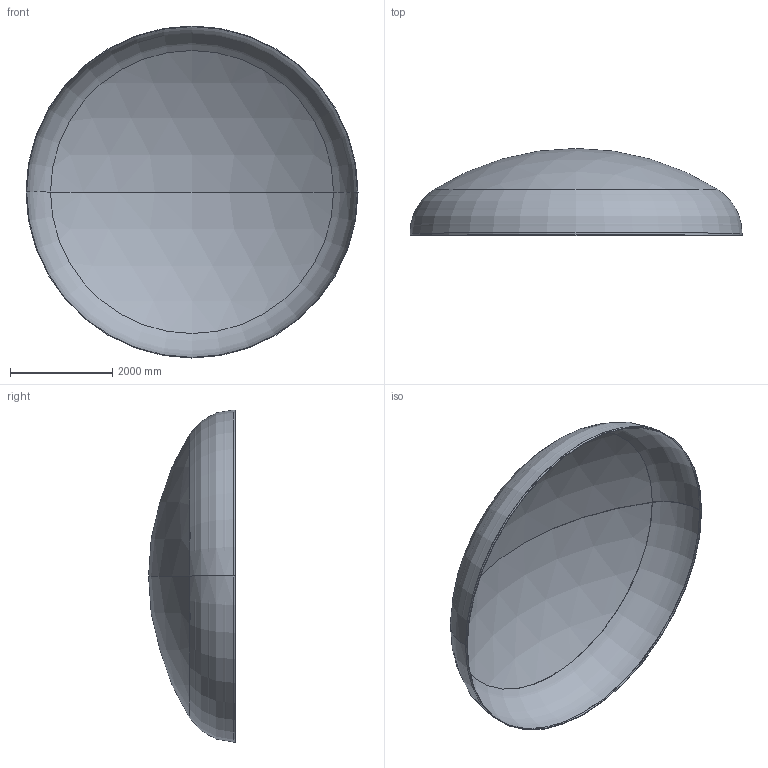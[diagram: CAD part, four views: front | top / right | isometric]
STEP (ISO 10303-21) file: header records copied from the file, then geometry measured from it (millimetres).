
FILE_DESCRIPTION (( 'STEP AP203' ), '1' );
FILE_NAME ('DIN 28013 Korbbogenform_-_Boden DIN 28013 - 6500 x 40 - I - s=12.step', '2016-07-04T10:39:54', ( '' ), ( '' ), 'SwSTEP 2.0', 'SolidWorks 2013', '' );
FILE_SCHEMA (( 'CONFIG_CONTROL_DESIGN' ));
Length unit declared in the file: millimetre
Products named in the file (1): DIN 28013 Korbbogenform_-_Boden DIN 28013 - 6500 x 40 - I - s=12
Bounding box: 6500 x 1697.94 x 6500 mm (x, y, z)
Volume: 559881842.7 mm3; surface area: 93558495.2 mm2
Topology: 1 solids, 1 shells, 13 faces, 24 edges, 14 vertices
Faces by surface type: torus 4, cylinder 4, sphere 4, plane 1
Entity records: 407 total; most frequent: DIRECTION 72, CARTESIAN_POINT 52, ORIENTED_EDGE 48, AXIS2_PLACEMENT_3D 34, EDGE_CURVE 24, CIRCLE 20, VERTEX_POINT 14, EDGE_LOOP 14
